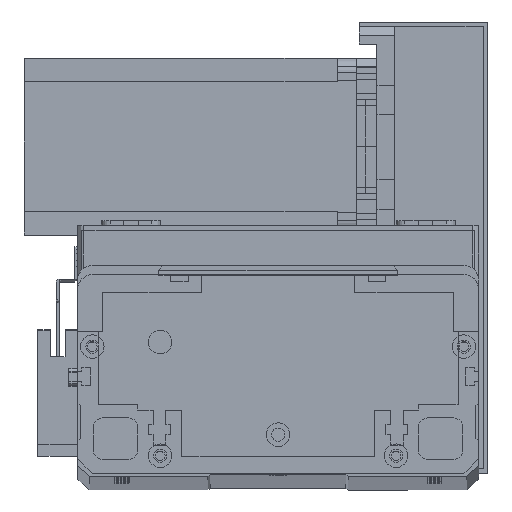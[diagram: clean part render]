
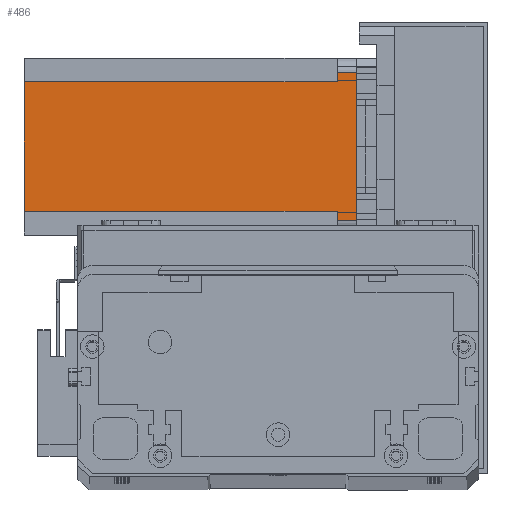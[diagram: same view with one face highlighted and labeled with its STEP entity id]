
A CAD part, top view. The second image highlights one B-rep face of the part: STEP entity #486.
In plain terms, the highlighted planar face has unit normal (0, 0, 1) as drawn and (0, 1, 0) by its records, which use the part's own axes.
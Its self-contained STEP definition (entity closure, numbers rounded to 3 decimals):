
#326 = DIRECTION ( 'NONE',  ( 0., 0., 1. ) ) ;
#486 = ADVANCED_FACE ( 'NONE', ( #25746 ), #27123, .T. ) ;
#1964 = VECTOR ( 'NONE', #23068, 1000. ) ;
#1968 = ORIENTED_EDGE ( 'NONE', *, *, #24321, .F. ) ;
#2480 = VERTEX_POINT ( 'NONE', #15962 ) ;
#3324 = CARTESIAN_POINT ( 'NONE',  ( 52., 60., -112.5 ) ) ;
#4343 = CARTESIAN_POINT ( 'NONE',  ( 5., 60., 0. ) ) ;
#4741 = VERTEX_POINT ( 'NONE', #3324 ) ;
#4901 = DIRECTION ( 'NONE',  ( 1., 0., 0. ) ) ;
#6319 = CARTESIAN_POINT ( 'NONE',  ( 55., 60., -6.5 ) ) ;
#6957 = DIRECTION ( 'NONE',  ( -1., 0., 0. ) ) ;
#7304 = LINE ( 'NONE', #19420, #26191 ) ;
#7773 = CARTESIAN_POINT ( 'NONE',  ( 55., 60., -112.5 ) ) ;
#7906 = CARTESIAN_POINT ( 'NONE',  ( 0., 60., 0. ) ) ;
#7965 = DIRECTION ( 'NONE',  ( -1., 0., 0. ) ) ;
#8314 = CARTESIAN_POINT ( 'NONE',  ( 8., 60., -6.5 ) ) ;
#8505 = VECTOR ( 'NONE', #24643, 1000. ) ;
#8536 = LINE ( 'NONE', #15997, #1964 ) ;
#8783 = LINE ( 'NONE', #22202, #13678 ) ;
#8960 = LINE ( 'NONE', #7906, #20111 ) ;
#9240 = VERTEX_POINT ( 'NONE', #4343 ) ;
#10443 = VERTEX_POINT ( 'NONE', #15412 ) ;
#11164 = LINE ( 'NONE', #7773, #16753 ) ;
#11944 = ORIENTED_EDGE ( 'NONE', *, *, #26413, .F. ) ;
#12666 = DIRECTION ( 'NONE',  ( 0., 0., -1. ) ) ;
#13676 = EDGE_LOOP ( 'NONE', ( #26942, #24445, #1968, #24117, #26967, #11944, #30612, #17999 ) ) ;
#13678 = VECTOR ( 'NONE', #7965, 1000. ) ;
#15327 = CARTESIAN_POINT ( 'NONE',  ( 52., 60., -6.5 ) ) ;
#15412 = CARTESIAN_POINT ( 'NONE',  ( 5., 60., -6.5 ) ) ;
#15485 = VERTEX_POINT ( 'NONE', #27679 ) ;
#15507 = LINE ( 'NONE', #19801, #27164 ) ;
#15920 = EDGE_CURVE ( 'NONE', #15485, #9240, #8960, .T. ) ;
#15962 = CARTESIAN_POINT ( 'NONE',  ( 8., 60., -112.5 ) ) ;
#15997 = CARTESIAN_POINT ( 'NONE',  ( 52., 60., -112.5 ) ) ;
#16753 = VECTOR ( 'NONE', #24368, 1000. ) ;
#17080 = LINE ( 'NONE', #29049, #24065 ) ;
#17999 = ORIENTED_EDGE ( 'NONE', *, *, #28186, .T. ) ;
#19420 = CARTESIAN_POINT ( 'NONE',  ( 52., 60., -6.5 ) ) ;
#19801 = CARTESIAN_POINT ( 'NONE',  ( 5., 60., -112.5 ) ) ;
#19941 = CARTESIAN_POINT ( 'NONE',  ( 0., 60., -112.5 ) ) ;
#20111 = VECTOR ( 'NONE', #6957, 1000. ) ;
#21173 = LINE ( 'NONE', #19941, #8505 ) ;
#22202 = CARTESIAN_POINT ( 'NONE',  ( 8., 60., -6.5 ) ) ;
#22588 = VERTEX_POINT ( 'NONE', #6319 ) ;
#23068 = DIRECTION ( 'NONE',  ( 0., 0., 1. ) ) ;
#23762 = EDGE_CURVE ( 'NONE', #15485, #22588, #11164, .T. ) ;
#24065 = VECTOR ( 'NONE', #12666, 1000. ) ;
#24117 = ORIENTED_EDGE ( 'NONE', *, *, #25694, .F. ) ;
#24321 = EDGE_CURVE ( 'NONE', #26106, #22588, #7304, .T. ) ;
#24368 = DIRECTION ( 'NONE',  ( 0., 0., -1. ) ) ;
#24445 = ORIENTED_EDGE ( 'NONE', *, *, #23762, .T. ) ;
#24643 = DIRECTION ( 'NONE',  ( -1., 0., 0. ) ) ;
#25649 = DIRECTION ( 'NONE',  ( 0., 0., 1. ) ) ;
#25694 = EDGE_CURVE ( 'NONE', #4741, #26106, #8536, .T. ) ;
#25746 = FACE_OUTER_BOUND ( 'NONE', #13676, .T. ) ;
#25921 = DIRECTION ( 'NONE',  ( 0., 1., 0. ) ) ;
#25979 = CARTESIAN_POINT ( 'NONE',  ( 0., 60., -112.5 ) ) ;
#26082 = EDGE_CURVE ( 'NONE', #4741, #2480, #21173, .T. ) ;
#26106 = VERTEX_POINT ( 'NONE', #15327 ) ;
#26191 = VECTOR ( 'NONE', #4901, 1000. ) ;
#26413 = EDGE_CURVE ( 'NONE', #29301, #2480, #17080, .T. ) ;
#26942 = ORIENTED_EDGE ( 'NONE', *, *, #15920, .F. ) ;
#26967 = ORIENTED_EDGE ( 'NONE', *, *, #26082, .T. ) ;
#27123 = PLANE ( 'NONE',  #27239 ) ;
#27164 = VECTOR ( 'NONE', #326, 1000. ) ;
#27239 = AXIS2_PLACEMENT_3D ( 'NONE', #25979, #25921, #25649 ) ;
#27637 = EDGE_CURVE ( 'NONE', #29301, #10443, #8783, .T. ) ;
#27679 = CARTESIAN_POINT ( 'NONE',  ( 55., 60., 0. ) ) ;
#28186 = EDGE_CURVE ( 'NONE', #10443, #9240, #15507, .T. ) ;
#29049 = CARTESIAN_POINT ( 'NONE',  ( 8., 60., -112.5 ) ) ;
#29301 = VERTEX_POINT ( 'NONE', #8314 ) ;
#30612 = ORIENTED_EDGE ( 'NONE', *, *, #27637, .T. ) ;
